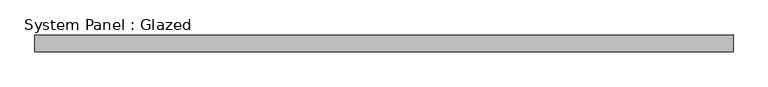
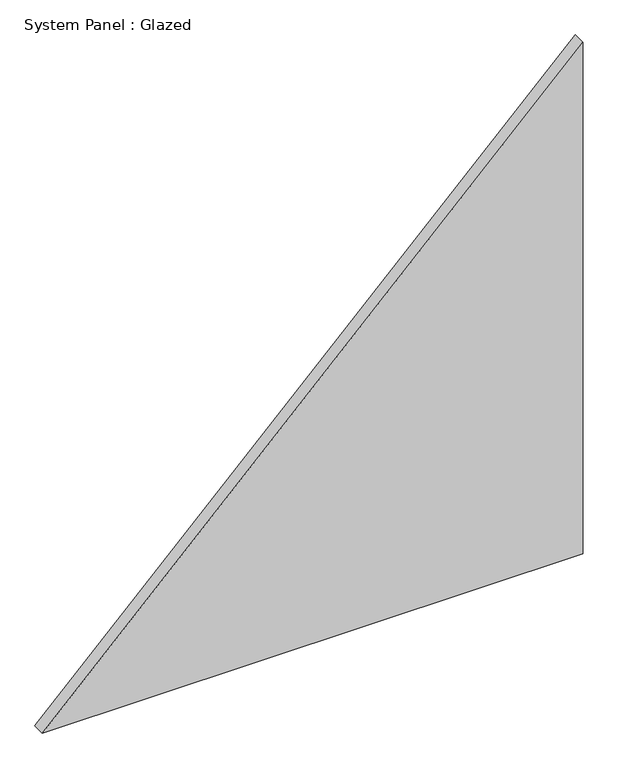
"""IFC4 building model written with IfcOpenShell, lengths in millimetres: plate geometry, System Panel : Glazed."""

from ifc_helpers import new_model, si_unit, frame, origin, place, context, project, spatial, polyline, outline, extrude, source, transform, mapped, element, save


def system_panel_glazed_cd011870(model_context):
    return source(origin(), model_context, "Body", "SweptSolid", [
        extrude(outline(polyline([(0.0, -532.9487195), (0.0, 532.9487195), (1065.897439, 532.9487195), (0.0, -532.9487195)])), frame((0.0, 19.05, 0.0), z_axis=(0.0, 1.0, 0.0), x_axis=(0.0, 0.0, 1.0)), (0.0, 0.0, 1.0), 25.4),
    ])


if __name__ == "__main__":
    model = new_model("IFC4")
    model_context = context("Model", 3, world=origin())
    ifc_project = project(units=[si_unit("LENGTHUNIT", "METRE", prefix="MILLI")], contexts=[model_context])
    site = spatial("IfcSite", under=ifc_project)
    building = spatial("IfcBuilding", under=site)
    placement = place(None, origin())
    system_panel_glazed_shape = system_panel_glazed_cd011870(model_context)
    element("IfcPlate", 1, ObjectType="System Panel : Glazed", at=placement, inside=building, context=model_context, shape_type="MappedRepresentation", body=[
        mapped(system_panel_glazed_shape, transform((0.0, 0.0, 0.0), x_axis=(1.0, 0.0, 0.0), y_axis=(0.0, 1.0, 0.0), z_axis=(0.0, 0.0, 1.0))),
    ])
    save(model, "model.ifc")
